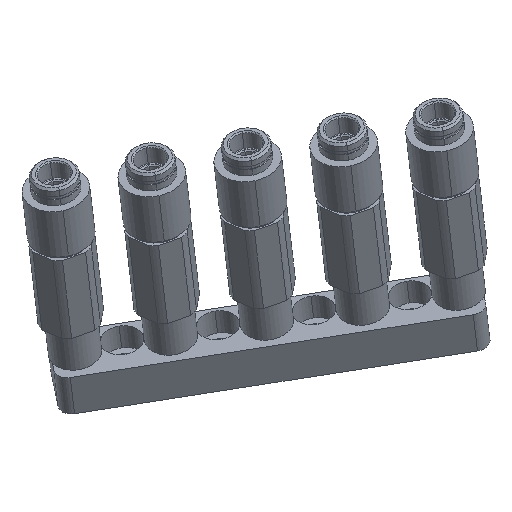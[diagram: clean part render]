
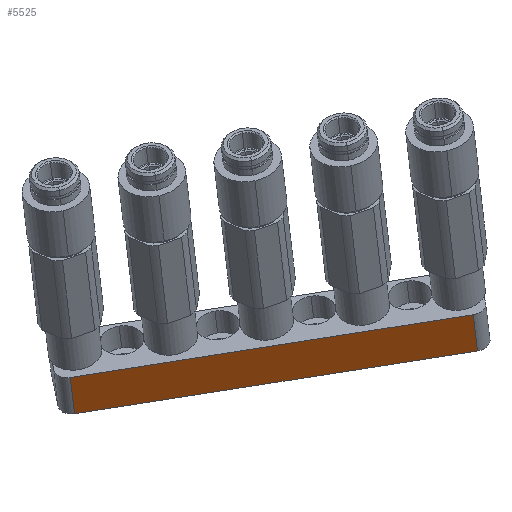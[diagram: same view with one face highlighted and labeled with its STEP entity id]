
A CAD part, front view. The second image highlights one B-rep face of the part: STEP entity #5525.
In plain terms, the highlighted planar face has unit normal (0.134, -0.75, -0.647) as drawn and (0, 0, 1) by its records, which use the part's own axes.
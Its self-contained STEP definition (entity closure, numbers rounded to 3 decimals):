
#24 = CARTESIAN_POINT ( 'NONE',  ( 42., -60., 16.5 ) ) ;
#330 = DIRECTION ( 'NONE',  ( 0., -1., 0. ) ) ;
#614 = DIRECTION ( 'NONE',  ( -1., 0., 0. ) ) ;
#724 = AXIS2_PLACEMENT_3D ( 'NONE', #5280, #2498, #5737 ) ;
#1060 = LINE ( 'NONE', #1282, #4663 ) ;
#1130 = VECTOR ( 'NONE', #2665, 1000. ) ;
#1282 = CARTESIAN_POINT ( 'NONE',  ( 42., -50., 16.5 ) ) ;
#1501 = DIRECTION ( 'NONE',  ( -1., 0., 0. ) ) ;
#1542 = PLANE ( 'NONE',  #724 ) ;
#2068 = LINE ( 'NONE', #5747, #4404 ) ;
#2498 = DIRECTION ( 'NONE',  ( 0., 0., -1. ) ) ;
#2580 = FACE_OUTER_BOUND ( 'NONE', #3980, .T. ) ;
#2665 = DIRECTION ( 'NONE',  ( 0., 1., 0. ) ) ;
#2717 = EDGE_CURVE ( 'NONE', #4673, #3530, #4380, .T. ) ;
#2909 = EDGE_CURVE ( 'NONE', #3236, #3530, #3659, .T. ) ;
#3122 = EDGE_CURVE ( 'NONE', #4673, #4223, #1060, .T. ) ;
#3236 = VERTEX_POINT ( 'NONE', #5098 ) ;
#3530 = VERTEX_POINT ( 'NONE', #4436 ) ;
#3659 = LINE ( 'NONE', #5440, #1130 ) ;
#3705 = ORIENTED_EDGE ( 'NONE', *, *, #5921, .F. ) ;
#3816 = ORIENTED_EDGE ( 'NONE', *, *, #3122, .F. ) ;
#3888 = CARTESIAN_POINT ( 'NONE',  ( 42., -50., 16.5 ) ) ;
#3980 = EDGE_LOOP ( 'NONE', ( #5829, #4974, #3705, #3816 ) ) ;
#4223 = VERTEX_POINT ( 'NONE', #24 ) ;
#4380 = LINE ( 'NONE', #4781, #5595 ) ;
#4404 = VECTOR ( 'NONE', #614, 1000. ) ;
#4436 = CARTESIAN_POINT ( 'NONE',  ( -42., -50., 16.5 ) ) ;
#4663 = VECTOR ( 'NONE', #330, 1000. ) ;
#4673 = VERTEX_POINT ( 'NONE', #3888 ) ;
#4781 = CARTESIAN_POINT ( 'NONE',  ( -45., -50., 16.5 ) ) ;
#4974 = ORIENTED_EDGE ( 'NONE', *, *, #2909, .F. ) ;
#5098 = CARTESIAN_POINT ( 'NONE',  ( -42., -60., 16.5 ) ) ;
#5280 = CARTESIAN_POINT ( 'NONE',  ( -45., -50., 16.5 ) ) ;
#5440 = CARTESIAN_POINT ( 'NONE',  ( -42., -50., 16.5 ) ) ;
#5525 = ADVANCED_FACE ( 'NONE', ( #2580 ), #1542, .F. ) ;
#5595 = VECTOR ( 'NONE', #1501, 1000. ) ;
#5737 = DIRECTION ( 'NONE',  ( -1., 0., 0. ) ) ;
#5747 = CARTESIAN_POINT ( 'NONE',  ( -45., -60., 16.5 ) ) ;
#5829 = ORIENTED_EDGE ( 'NONE', *, *, #2717, .T. ) ;
#5921 = EDGE_CURVE ( 'NONE', #4223, #3236, #2068, .T. ) ;
